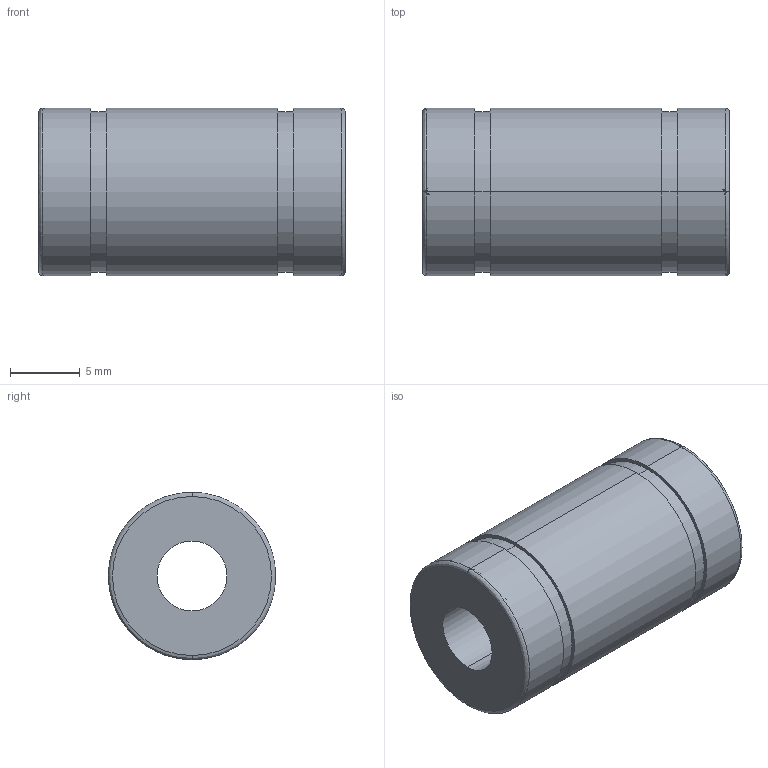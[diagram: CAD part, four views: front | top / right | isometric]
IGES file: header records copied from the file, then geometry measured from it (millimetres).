
Start section: 3D InterOp IGES (Version 21 0 1), Spatial Corp. Copyright (c) 1999-2007.
Global section: file name: L-5V.igs; native system: Spatial Corp.; preprocessor: 3D InterOp GENERIC/IGES 3.0; author: Noname; organization: Noname; date: 20220516.094443; units: millimetre
Bounding box: 22 x 12 x 12 mm (x, y, z)
Surface area: 1585.8 mm2 (no closed solid volume)
Topology: 0 solids, 0 shells, 22 faces, 96 edges, 92 vertices
Faces by surface type: revolution 16, extrusion 6
